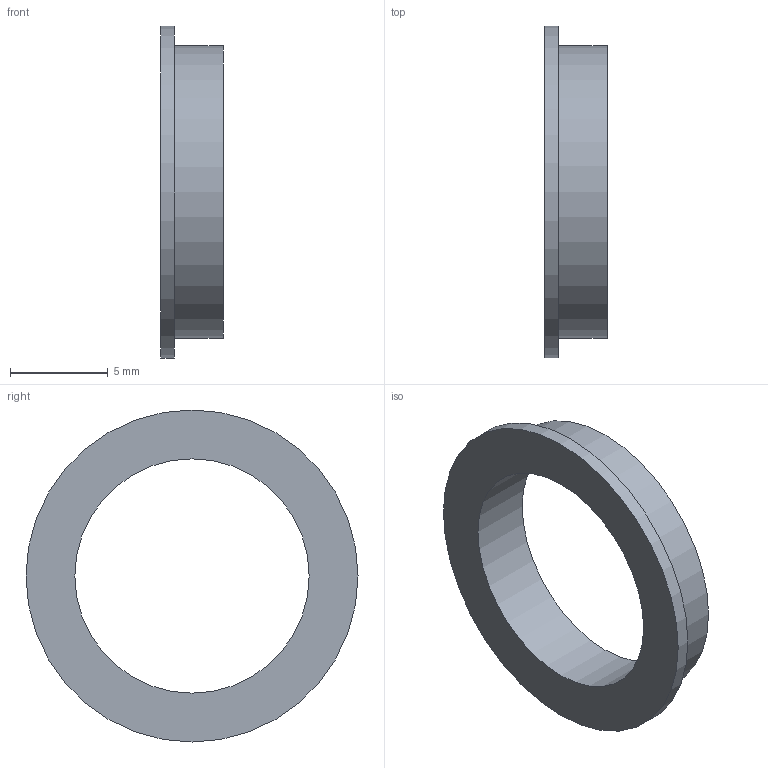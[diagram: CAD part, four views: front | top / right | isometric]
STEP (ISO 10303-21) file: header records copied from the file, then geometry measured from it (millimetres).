
FILE_DESCRIPTION(('Open CASCADE Model'),'2;1');
FILE_NAME('Open CASCADE Shape Model','2026-10-24T14:13:33',('Author'),( 'Open CASCADE'),'Open CASCADE STEP processor 7.9','Open CASCADE 7.9' ,'Unknown');
FILE_SCHEMA(('AUTOMOTIVE_DESIGN { 1 0 10303 214 1 1 1 1 }'));
Length unit declared in the file: millimetre
Products named in the file (1): Open CASCADE STEP translator 7.9 3
Bounding box: 3.2 x 17 x 17 mm (x, y, z)
Volume: 238.8 mm3; surface area: 503.6 mm2
Topology: 1 solids, 1 shells, 6 faces, 9 edges, 6 vertices
Faces by surface type: plane 3, cylinder 3
Full cylindrical faces by diameter (mm): 12 x1, 15 x1, 17 x1
Entity records: 270 total; most frequent: DIRECTION 47, CARTESIAN_POINT 40, ORIENTED_EDGE 18, PCURVE 18, DEFINITIONAL_REPRESENTATION 18, LINE 15, VECTOR 15, AXIS2_PLACEMENT_3D 13
